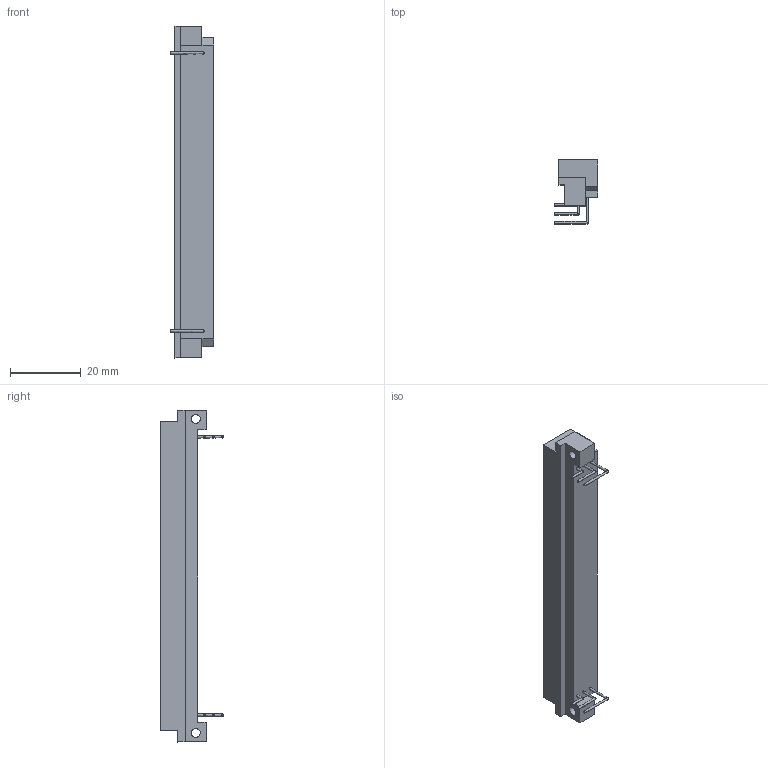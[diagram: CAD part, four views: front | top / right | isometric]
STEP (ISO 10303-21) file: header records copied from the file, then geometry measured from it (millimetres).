
FILE_DESCRIPTION((''),'2;1');
FILE_NAME('/gds/users/lueck/0903_DIN_Type_C_angled_male_96_pole.stp', '2004-08-02T15:00:03',('User'),('SDRC'),'I-DEAS Master Series 9','UNIX', 'Yes');
FILE_SCHEMA(('AUTOMOTIVE_DESIGN { 1 0 10303 214 1 1 1 1 }'));
Length unit declared in the file: millimetre
Products named in the file (1): 0903_DIN_Type_C_angled_male_96_pole
Bounding box: 12.35 x 18.02 x 94 mm (x, y, z)
Volume: 5293.8 mm3; surface area: 5613.3 mm2
Topology: 1 solids, 1 shells, 85 faces, 194 edges, 112 vertices
Faces by surface type: bspline 85
Entity records: 2589 total; most frequent: CARTESIAN_POINT 1307, ORIENTED_EDGE 364, EDGE_CURVE 182, VERTEX_POINT 112, EDGE_LOOP 102, B_SPLINE_CURVE_WITH_KNOTS 95, FACE_OUTER_BOUND 85, ADVANCED_FACE 85
